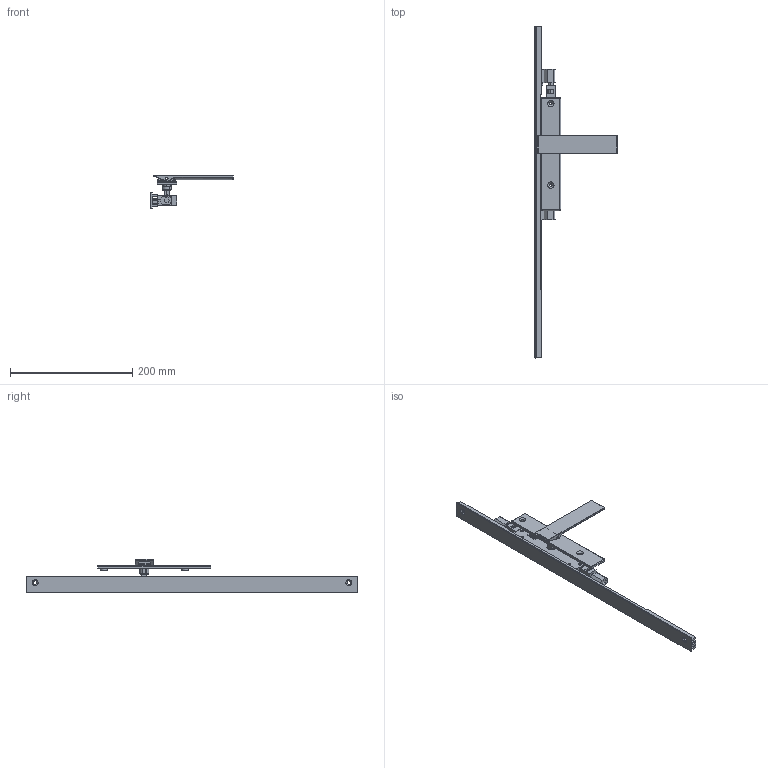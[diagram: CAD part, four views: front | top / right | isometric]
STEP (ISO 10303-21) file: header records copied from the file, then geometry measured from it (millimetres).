
FILE_DESCRIPTION (( 'STEP AP214' ), '1' );
FILE_NAME ('TPL-W-517-U 19July2024.STEP', '2024-12-05T00:08:20', ( '' ), ( '' ), 'SwSTEP 2.0', 'SolidWorks 2023', '' );
FILE_SCHEMA (( 'AUTOMOTIVE_DESIGN' ));
Length unit declared in the file: millimetre
Products named in the file (16): Copy of LKC-547 Spindle - simplified^Copy of TPGen2 handle non-keyed - simplified_TPL-W-017 19July2024_G - 24mm; Copy of TPLGen2 push rod - simplified^Copy of TPLGen2 lock body non-keyed assembly_TPL-W-017 19July2024_Female thread M10; Copy of TPLGen2 lock body non-keyed^Copy of TPLGen2 lock body non-keyed assembly_TPL-W-017 19July2024; Copy of COV-112-C Cover C TPLGen2 Lock body^TPL-W-017 19July2024; Copy of Handle sub-assembly - simplified^Copy of TPGen2 handle non-keyed - simplified_TPL-W-017 19July2024; Bolt.step; Copy of TPGen2 handle non-keyed - simplified^TPL-W-017 19July2024_Right; Copy of Escutcheon plate unkeyed 185mm - simplified^Copy of TPGen2 handle non-keyed - simplified_TPL-W-017 19July2024; Copy of Adapter DnF - simplfied^TPL-W-017 19July2024_26mm backset; COV-112-B Cover B suit TPLGen2 standard range^TPL-W-017 19July2024_2870mm; Bottom twinpoint transmission rod wood system^TPL-W-017 19July2024_Standard Range 2891.7mm; COV-112-A Cover A suit TPLGen2 standard range^TPL-W-017 19July2024_2870mm; Copy of Adapter CnE - simplfied^TPL-W-017 19July2024_26mm backset; Copy of LKC-531-A Rod TPLGen2 machined bolt end^TPL-W-017 19July2024_LKC-531-A-M003; TPL-W-517-U 19July2024; Copy of TPLGen2 lock body non-keyed assembly^TPL-W-017 19July2024_Bolts retracted
Assembly tree (13 placements, depth 3):
  Bolt.step
  COV-112-B Cover B suit TPLGen2 standard range^TPL-W-017 19July2024_2870mm
  COV-112-A Cover A suit TPLGen2 standard range^TPL-W-017 19July2024_2870mm
  TPL-W-517-U 19July2024
    Copy of TPLGen2 lock body non-keyed assembly^TPL-W-017 19July2024_Bolts retracted
      Copy of TPLGen2 lock body non-keyed^Copy of TPLGen2 lock body non-keyed assembly_TPL-W-017 19July2024
      Copy of TPLGen2 push rod - simplified^Copy of TPLGen2 lock body non-keyed assembly_TPL-W-017 19July2024_Female thread M10  x2
    Copy of TPGen2 handle non-keyed - simplified^TPL-W-017 19July2024_Right
      Copy of Escutcheon plate unkeyed 185mm - simplified^Copy of TPGen2 handle non-keyed - simplified_TPL-W-017 19July2024
      Copy of Handle sub-assembly - simplified^Copy of TPGen2 handle non-keyed - simplified_TPL-W-017 19July2024
      Copy of LKC-547 Spindle - simplified^Copy of TPGen2 handle non-keyed - simplified_TPL-W-017 19July2024_G - 24mm
    Copy of COV-112-C Cover C TPLGen2 Lock body^TPL-W-017 19July2024
    Bottom twinpoint transmission rod wood system^TPL-W-017 19July2024_Standard Range 2891.7mm
    Copy of LKC-531-A Rod TPLGen2 machined bolt end^TPL-W-017 19July2024_LKC-531-A-M003
    Copy of Adapter DnF - simplfied^TPL-W-017 19July2024_26mm backset
    Copy of Adapter CnE - simplfied^TPL-W-017 19July2024_26mm backset
Bounding box: 134.5 x 544 x 54.62 mm (x, y, z)
Volume: 210366.7 mm3; surface area: 119810.7 mm2
Topology: 12 solids, 12 shells, 643 faces, 1638 edges, 1036 vertices
Faces by surface type: plane 303, cylinder 199, bspline 77, torus 32, cone 20, sphere 12
Entity records: 19387 total; most frequent: CARTESIAN_POINT 4495, ORIENTED_EDGE 3060, DIRECTION 2907, EDGE_CURVE 1530, AXIS2_PLACEMENT_3D 1000, VERTEX_POINT 976, LINE 907, VECTOR 907
